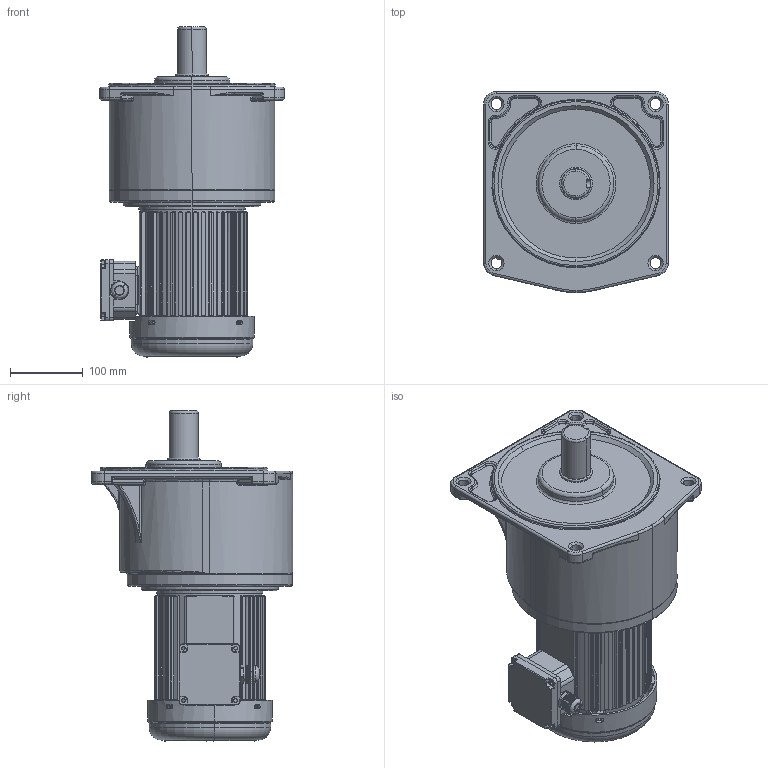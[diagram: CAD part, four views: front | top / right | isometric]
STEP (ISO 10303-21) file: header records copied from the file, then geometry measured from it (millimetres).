
FILE_DESCRIPTION (( 'STEP AP203' ), '1' );
FILE_NAME ('750W配5#立式.STEP', '2019-06-14T08:44:31', ( '微软中国' ), ( '微软用户' ), 'SwSTEP 2.0', 'SolidWorks 2012', '' );
FILE_SCHEMA (( 'CONFIG_CONTROL_DESIGN' ));
Products named in the file (9): 750W饜5#蕾宒; 5#蕾宒眊极; 750W瑞欶; 釱菜; 750W 綴傷裔2_2; 坶踡ん 蚾饜; 蜊輛綴諉盄碟裔; 呿蹋諉盄碟; 儂褲 750W
Assembly tree (8 placements, depth 2):
  750W饜5#蕾宒
    儂褲 750W
    呿蹋諉盄碟
    蜊輛綴諉盄碟裔
    坶踡ん 蚾饜
    750W 綴傷裔2_2
    釱菜
    750W瑞欶
    5#蕾宒眊极
Bounding box: 254.2 x 277.1 x 455.13 mm (x, y, z)
Volume: 9423297.9 mm3; surface area: 1070982.1 mm2
Topology: 11 solids, 25 shells, 2944 faces, 7694 edges, 4768 vertices
Faces by surface type: cylinder 1344, plane 821, bspline 725, torus 42, sphere 8, cone 4
Entity records: 119469 total; most frequent: CARTESIAN_POINT 48717, ORIENTED_EDGE 15066, DIRECTION 14204, EDGE_CURVE 7535, AXIS2_PLACEMENT_3D 5470, VERTEX_POINT 4768, EDGE_LOOP 3453, LINE 3264
